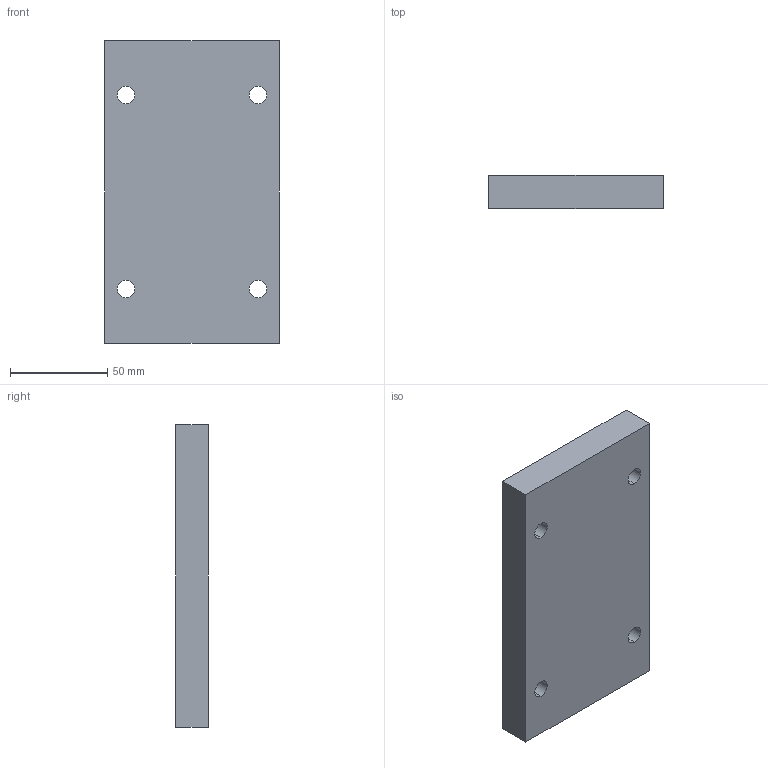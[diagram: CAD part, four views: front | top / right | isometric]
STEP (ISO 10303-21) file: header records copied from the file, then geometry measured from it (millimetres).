
FILE_DESCRIPTION (( 'STEP AP214' ), '1' );
FILE_NAME ('L60_156x156x17.STEP', '2018-10-08T17:35:07', ( '' ), ( '' ), 'SwSTEP 2.0', 'SolidWorks 2014', '' );
FILE_SCHEMA (( 'AUTOMOTIVE_DESIGN' ));
Length unit declared in the file: millimetre
Products named in the file (1): L60_156x156x17
Bounding box: 90 x 17 x 156 mm (x, y, z)
Volume: 229994.1 mm3; surface area: 38877.9 mm2
Topology: 1 solids, 1 shells, 42 faces, 100 edges, 60 vertices
Faces by surface type: cylinder 24, plane 10, cone 8
Entity records: 1222 total; most frequent: DIRECTION 226, CARTESIAN_POINT 195, ORIENTED_EDGE 184, EDGE_CURVE 92, AXIS2_PLACEMENT_3D 91, VERTEX_POINT 60, EDGE_LOOP 58, CIRCLE 48
